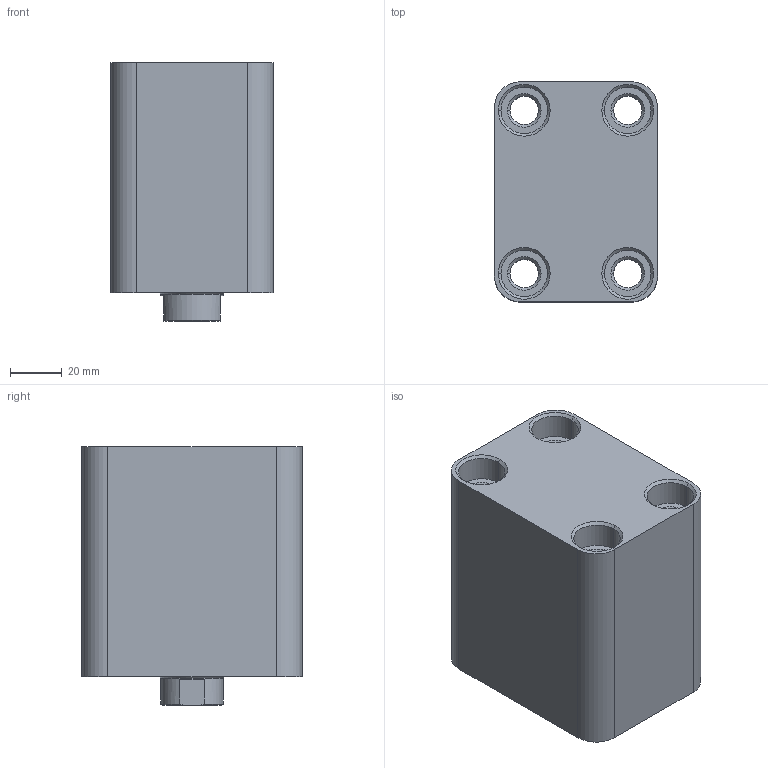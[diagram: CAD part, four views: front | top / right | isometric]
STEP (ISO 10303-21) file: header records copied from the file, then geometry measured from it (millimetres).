
FILE_DESCRIPTION (( 'STEP AP214' ), '1' );
FILE_NAME ('KBZ_02_40_25_35.STEP', '2022-10-02T11:20:23', ( '' ), ( '' ), 'SwSTEP 2.0', 'SolidWorks 2021', '' );
FILE_SCHEMA (( 'AUTOMOTIVE_DESIGN' ));
Length unit declared in the file: millimetre
Products named in the file (9): K22-25X35X6; KBZ_03_40_25_烰_KAPAK; KBZ_02_40_25_35; KO-38X3; KBZ_03_40_25_ON_KAPAK; 25_28_PAP_25_05; KBZ_02_40_GOVDE_WEB; K05-25X31X4; KBZ_02_25_K_MIL_WEB
Assembly tree (8 placements, depth 3):
  KBZ_02_40_25_35
    KBZ_02_40_GOVDE_WEB
    KBZ_03_40_25_烰_KAPAK
      KBZ_03_40_25_ON_KAPAK
      K05-25X31X4
      KO-38X3
      25_28_PAP_25_05
      K22-25X35X6
    KBZ_02_25_K_MIL_WEB
Bounding box: 63 x 85 x 100 mm (x, y, z)
Volume: 397779.7 mm3; surface area: 79318.2 mm2
Topology: 7 solids, 7 shells, 578 faces, 1407 edges, 895 vertices
Faces by surface type: bspline 208, plane 202, cone 84, cylinder 76, torus 8
Entity records: 26587 total; most frequent: CARTESIAN_POINT 13889, ORIENTED_EDGE 2810, DIRECTION 1994, EDGE_CURVE 1405, VERTEX_POINT 895, LINE 724, VECTOR 724, EDGE_LOOP 652
